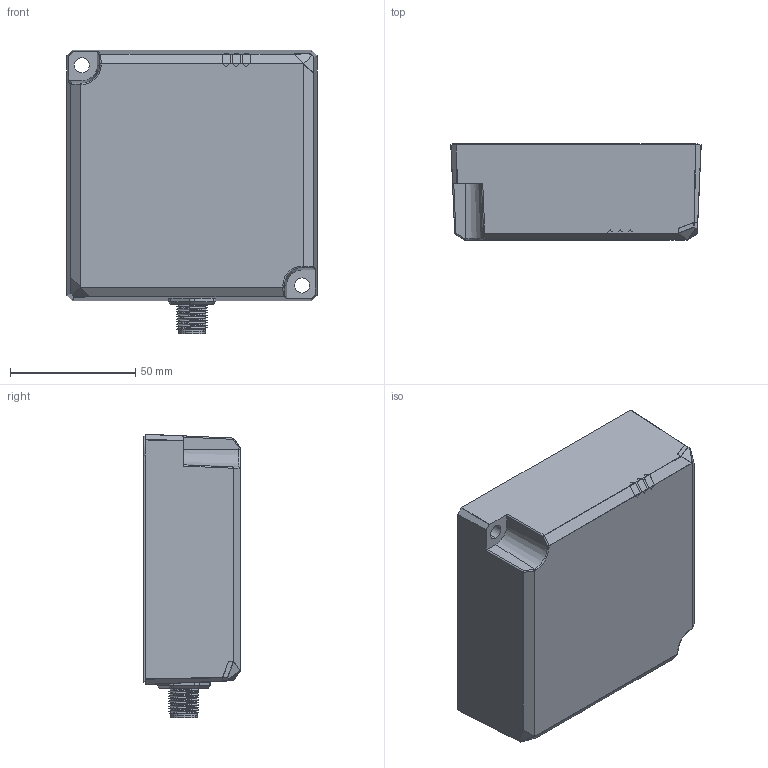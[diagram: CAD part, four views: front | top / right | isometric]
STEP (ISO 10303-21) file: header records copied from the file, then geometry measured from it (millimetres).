
FILE_DESCRIPTION((''),'2;1');
FILE_NAME('Q80-V00_ASM_1_ASM_11_ASM','2022-03-01T',('Administrator'),(''),'PRO/ENGINEER BY PARAMETRIC TECHNOLOGY CORPORATION, 2008380','PRO/ENGINEER BY PARAMETRIC TECHNOLOGY CORPORATION, 2008380','');
FILE_SCHEMA(('CONFIG_CONTROL_DESIGN'));
Length unit declared in the file: millimetre
Products named in the file (9): Q100-TOP-SHELL_1_22; _X2_5B9E4F53_X0_1-58_6_3_1_6; MANIFOLD_SOLID_BREP_24344_2_1_6; H04A01_11_1_1_1_2; TL_7_1_1_1_2; QW-SHELL-PIN_1_1_1_1_2; 5P_ASM_1_ASM_1_ASM_1_ASM_1_ASM; _X2_5B9E4F53_X0_1-57_12_4_1_5; Q80-V00_ASM_1_ASM_11_ASM
Assembly tree (14 placements, depth 3):
  Q80-V00_ASM_1_ASM_11_ASM
    Q100-TOP-SHELL_1_22
    _X2_5B9E4F53_X0_1-58_6_3_1_6
    MANIFOLD_SOLID_BREP_24344_2_1_6  x3
    5P_ASM_1_ASM_1_ASM_1_ASM_1_ASM
      H04A01_11_1_1_1_2
      TL_7_1_1_1_2  x5
      QW-SHELL-PIN_1_1_1_1_2
    _X2_5B9E4F53_X0_1-57_12_4_1_5
Bounding box: 100.04 x 38.5 x 113.32 mm (x, y, z)
Volume: 355364.6 mm3; surface area: 55183.2 mm2
Topology: 13 solids, 18 shells, 701 faces, 1877 edges, 1229 vertices
Faces by surface type: plane 427, cylinder 212, bspline 28, cone 24, sphere 6, torus 2, extrusion 2
Entity records: 23315 total; most frequent: CARTESIAN_POINT 7948, ORIENTED_EDGE 3310, DIRECTION 2911, EDGE_CURVE 1655, VECTOR 1193, LINE 1191, VERTEX_POINT 1097, AXIS2_PLACEMENT_3D 859
